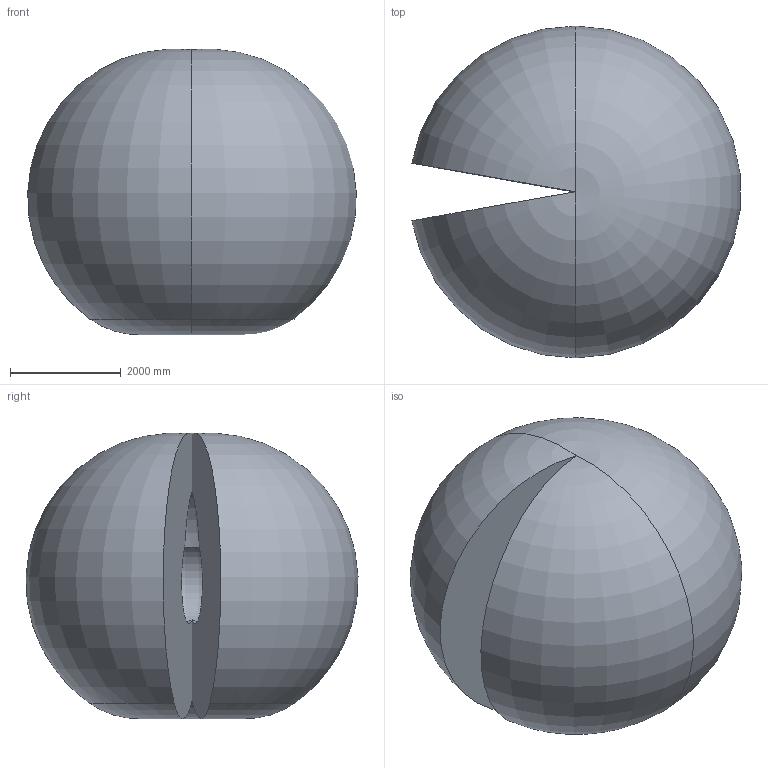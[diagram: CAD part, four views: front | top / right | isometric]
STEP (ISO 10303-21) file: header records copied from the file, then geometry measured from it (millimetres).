
FILE_DESCRIPTION (( 'STEP AP214' ), '1' );
FILE_NAME ('IRB5720-MH3_125kg-300_OmniCore_rev00_Working-space.step', '2025-07-08T11:14:28', ( '' ), ( '' ), 'SwSTEP 2.0', 'SolidWorks 2024', '' );
FILE_SCHEMA (( 'AUTOMOTIVE_DESIGN' ));
Length unit declared in the file: millimetre
Products named in the file (1): IRB5720-MH3_125kg-300_OmniCore_rev00_Working-space
Bounding box: 5935.91 x 5997.9 x 5154.8 mm (x, y, z)
Volume: 93642688291.7 mm3; surface area: 137200043.5 mm2
Topology: 1 solids, 1 shells, 14 faces, 36 edges, 12 vertices
Faces by surface type: torus 12, plane 2
Entity records: 357 total; most frequent: DIRECTION 76, CARTESIAN_POINT 51, ORIENTED_EDGE 48, AXIS2_PLACEMENT_3D 37, EDGE_CURVE 24, CIRCLE 22, FACE_OUTER_BOUND 14, EDGE_LOOP 14
